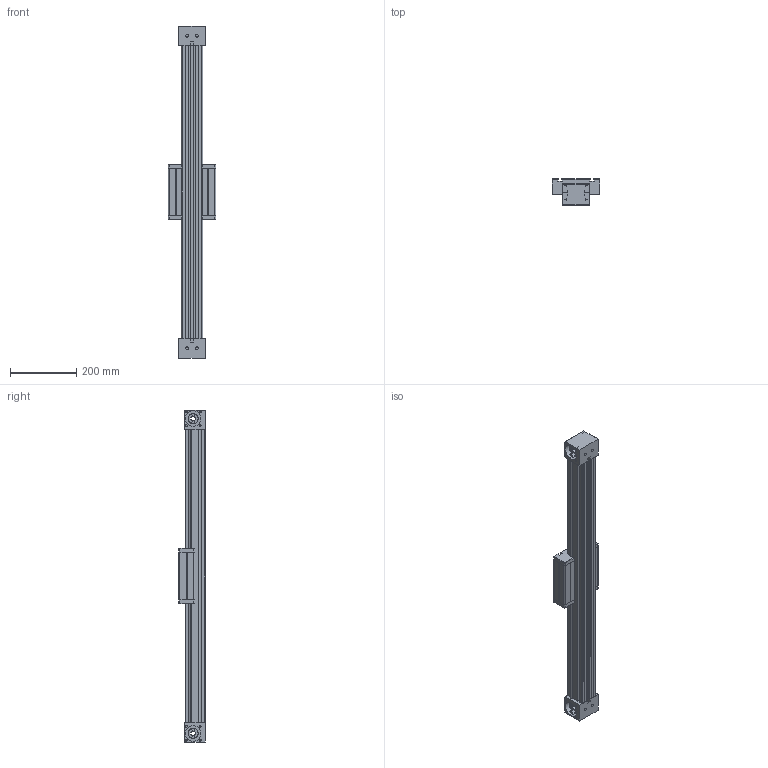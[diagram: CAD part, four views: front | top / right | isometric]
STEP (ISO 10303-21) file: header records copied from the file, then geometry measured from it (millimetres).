
FILE_DESCRIPTION (( 'STEP AP214' ), '1' );
FILE_NAME ('MLZ-60.STEP', '2016-01-14T10:47:37', ( 'admin' ), ( '' ), 'SwSTEP 2.0', 'SolidWorks 2015', '' );
FILE_SCHEMA (( 'AUTOMOTIVE_DESIGN' ));
Length unit declared in the file: millimetre
Products named in the file (5): MLZ-60; Kopie von Bahr-MLZ-MLZ-60  1  0 0 0  04  1  1290_MLZ60 Carriage^MLZ60 S0 A0_A; Kopie von Bahr-MLZ-MLZ-60  1  0 0 0  04  1  1290_MLZ Extrusion 60^MLZ60 S0 A0_0; Kopie von Bahr-MLZ-MLZ-60  1  0 0 0  04  1  1290_MLZ End_Block(2)^MLZ60 S0 A0_MLZ-60-A; Kopie von Bahr-MLZ-MLZ-60  1  0 0 0  04  1  1290_MLZ End_Block(1)^MLZ60 S0 A0_MLZ-60-B
Assembly tree (4 placements, depth 2):
  MLZ-60
    Kopie von Bahr-MLZ-MLZ-60  1  0 0 0  04  1  1290_MLZ End_Block(1)^MLZ60 S0 A0_MLZ-60-B
    Kopie von Bahr-MLZ-MLZ-60  1  0 0 0  04  1  1290_MLZ End_Block(2)^MLZ60 S0 A0_MLZ-60-A
    Kopie von Bahr-MLZ-MLZ-60  1  0 0 0  04  1  1290_MLZ Extrusion 60^MLZ60 S0 A0_0
    Kopie von Bahr-MLZ-MLZ-60  1  0 0 0  04  1  1290_MLZ60 Carriage^MLZ60 S0 A0_A
Bounding box: 144 x 79 x 1000 mm (x, y, z)
Volume: 4163335.7 mm3; surface area: 544787.3 mm2
Topology: 8 solids, 8 shells, 351 faces, 907 edges, 598 vertices
Faces by surface type: plane 210, cylinder 129, torus 8, cone 4
Entity records: 10980 total; most frequent: DIRECTION 1909, CARTESIAN_POINT 1863, ORIENTED_EDGE 1814, EDGE_CURVE 907, AXIS2_PLACEMENT_3D 644, LINE 621, VECTOR 621, VERTEX_POINT 598
